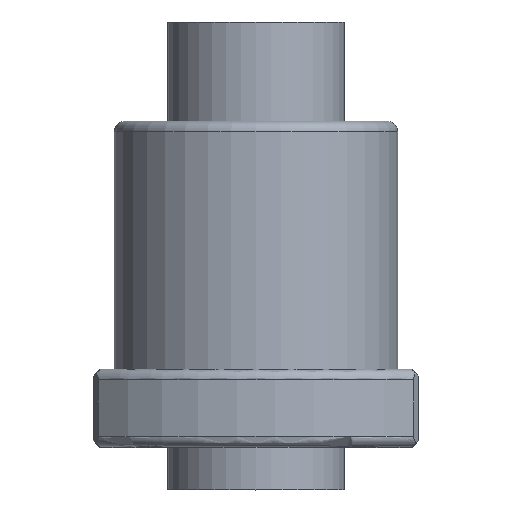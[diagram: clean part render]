
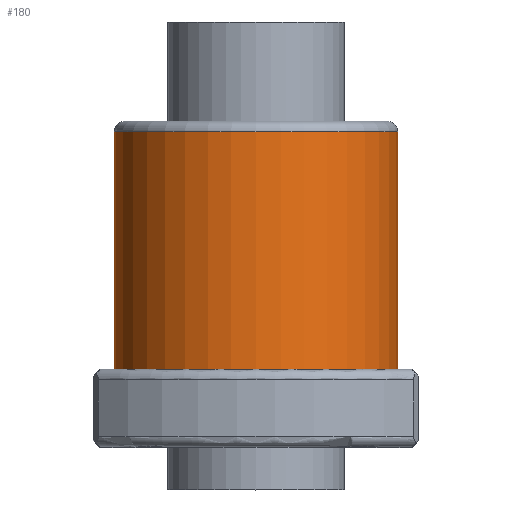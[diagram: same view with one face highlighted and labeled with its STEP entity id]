
A CAD part, top view. The second image highlights one B-rep face of the part: STEP entity #180.
In plain terms, the highlighted cylindrical face has radius 20 mm (diameter 40 mm), a full revolution.
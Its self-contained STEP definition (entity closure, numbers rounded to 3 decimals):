
#180=ADVANCED_FACE('',(#256,#257),#228,.T.);
#228=CYLINDRICAL_SURFACE('',#861,20.);
#256=FACE_BOUND('',#334,.T.);
#257=FACE_BOUND('',#335,.T.);
#334=EDGE_LOOP('',(#446));
#335=EDGE_LOOP('',(#447));
#446=ORIENTED_EDGE('',*,*,#709,.T.);
#447=ORIENTED_EDGE('',*,*,#692,.T.);
#617=VERTEX_POINT('',#1211);
#634=VERTEX_POINT('',#1250);
#692=EDGE_CURVE('',#617,#617,#785,.T.);
#709=EDGE_CURVE('',#634,#634,#796,.T.);
#785=CIRCLE('',#844,20.);
#796=CIRCLE('',#860,20.);
#844=AXIS2_PLACEMENT_3D('',#1210,#982,#983);
#860=AXIS2_PLACEMENT_3D('',#1249,#1020,#1021);
#861=AXIS2_PLACEMENT_3D('',#1251,#1022,#1023);
#982=DIRECTION('',(0.,1.,0.));
#983=DIRECTION('',(0.,0.,-1.));
#1020=DIRECTION('',(0.,-1.,0.));
#1021=DIRECTION('',(0.,0.,-1.));
#1022=DIRECTION('',(0.,1.,0.));
#1023=DIRECTION('',(0.,0.,1.));
#1210=CARTESIAN_POINT('',(0.,11.,0.));
#1211=CARTESIAN_POINT('',(0.,11.,-20.));
#1249=CARTESIAN_POINT('',(0.,44.5,0.));
#1250=CARTESIAN_POINT('',(0.,44.5,-20.));
#1251=CARTESIAN_POINT('',(0.,0.,0.));
